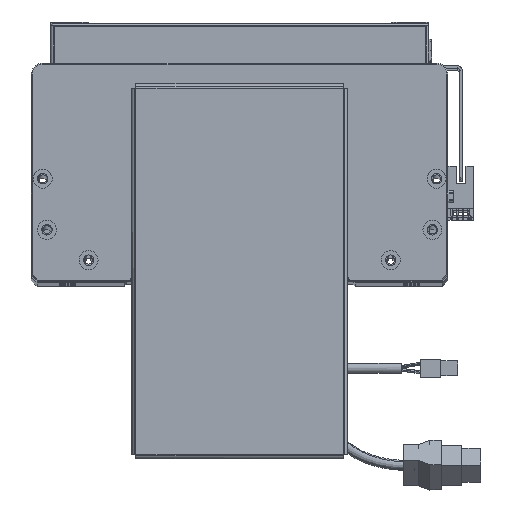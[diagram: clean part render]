
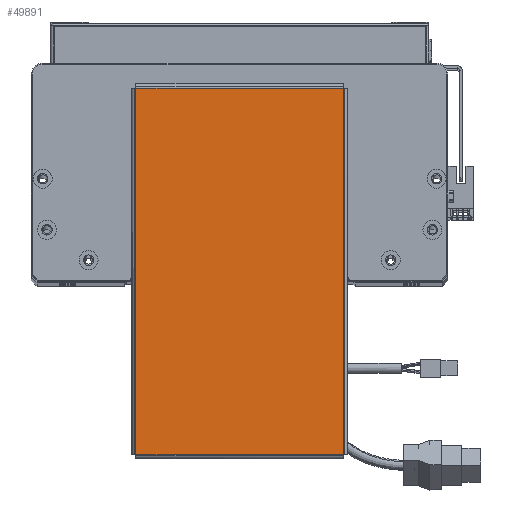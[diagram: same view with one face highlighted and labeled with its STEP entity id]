
A CAD part, top view. The second image highlights one B-rep face of the part: STEP entity #49891.
In plain terms, the highlighted planar face has unit normal (0, 0, 1).
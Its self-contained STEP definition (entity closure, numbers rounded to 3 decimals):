
#2386 = CARTESIAN_POINT ( 'NONE',  ( 96.763, -54.793, 0. ) ) ;
#4712 = CARTESIAN_POINT ( 'NONE',  ( -96.763, -54.763, 0. ) ) ;
#5383 = DIRECTION ( 'NONE',  ( -1., 0., 0. ) ) ;
#8822 = ORIENTED_EDGE ( 'NONE', *, *, #54699, .T. ) ;
#11274 = AXIS2_PLACEMENT_3D ( 'NONE', #66968, #35841, #46673 ) ;
#14200 = VERTEX_POINT ( 'NONE', #37981 ) ;
#16692 = VECTOR ( 'NONE', #32250, 1000. ) ;
#17224 = LINE ( 'NONE', #36758, #19646 ) ;
#17560 = LINE ( 'NONE', #21436, #16692 ) ;
#18644 = EDGE_LOOP ( 'NONE', ( #45387, #44912, #42737, #8822 ) ) ;
#19646 = VECTOR ( 'NONE', #22161, 1000. ) ;
#21436 = CARTESIAN_POINT ( 'NONE',  ( -96.793, -54.763, 0. ) ) ;
#22161 = DIRECTION ( 'NONE',  ( 0., -1., 0. ) ) ;
#24664 = LINE ( 'NONE', #2386, #33473 ) ;
#25773 = PLANE ( 'NONE',  #11274 ) ;
#31144 = VERTEX_POINT ( 'NONE', #62825 ) ;
#31356 = VECTOR ( 'NONE', #5383, 1000. ) ;
#32250 = DIRECTION ( 'NONE',  ( 1., 0., 0. ) ) ;
#33473 = VECTOR ( 'NONE', #38694, 1000. ) ;
#35841 = DIRECTION ( 'NONE',  ( 0., 0., 1. ) ) ;
#36758 = CARTESIAN_POINT ( 'NONE',  ( -96.763, 54.793, 0. ) ) ;
#37981 = CARTESIAN_POINT ( 'NONE',  ( -96.763, 54.763, 0. ) ) ;
#38694 = DIRECTION ( 'NONE',  ( 0., 1., 0. ) ) ;
#42427 = EDGE_CURVE ( 'NONE', #53570, #31144, #24664, .T. ) ;
#42737 = ORIENTED_EDGE ( 'NONE', *, *, #58876, .T. ) ;
#44912 = ORIENTED_EDGE ( 'NONE', *, *, #42427, .T. ) ;
#45387 = ORIENTED_EDGE ( 'NONE', *, *, #50099, .T. ) ;
#46673 = DIRECTION ( 'NONE',  ( 1., 0., 0. ) ) ;
#49891 = ADVANCED_FACE ( 'NONE', ( #52235 ), #25773, .T. ) ;
#50099 = EDGE_CURVE ( 'NONE', #58813, #53570, #17560, .T. ) ;
#50346 = CARTESIAN_POINT ( 'NONE',  ( 96.793, 54.763, 0. ) ) ;
#52235 = FACE_OUTER_BOUND ( 'NONE', #18644, .T. ) ;
#53570 = VERTEX_POINT ( 'NONE', #61084 ) ;
#54699 = EDGE_CURVE ( 'NONE', #14200, #58813, #17224, .T. ) ;
#58798 = LINE ( 'NONE', #50346, #31356 ) ;
#58813 = VERTEX_POINT ( 'NONE', #4712 ) ;
#58876 = EDGE_CURVE ( 'NONE', #31144, #14200, #58798, .T. ) ;
#61084 = CARTESIAN_POINT ( 'NONE',  ( 96.763, -54.763, 0. ) ) ;
#62825 = CARTESIAN_POINT ( 'NONE',  ( 96.763, 54.763, 0. ) ) ;
#66968 = CARTESIAN_POINT ( 'NONE',  ( 0., 0., 0. ) ) ;
